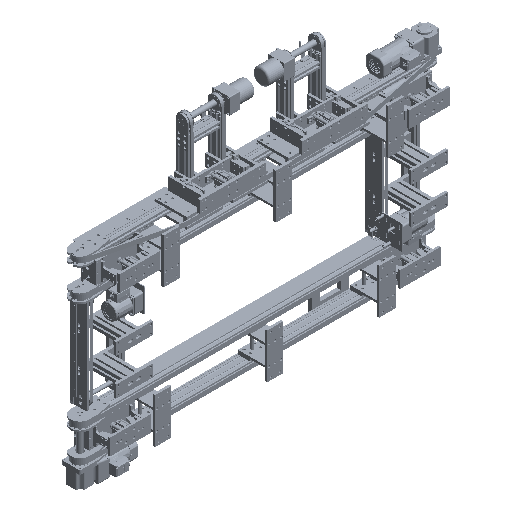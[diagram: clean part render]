
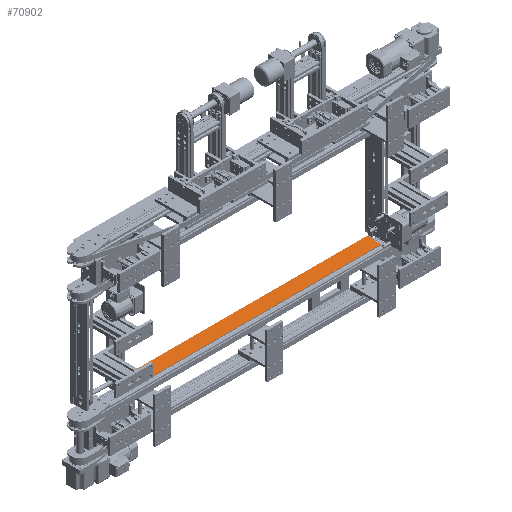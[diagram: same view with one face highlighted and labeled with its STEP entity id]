
A CAD part, isometric view. The second image highlights one B-rep face of the part: STEP entity #70902.
In plain terms, the highlighted planar face has unit normal (0, 0, 1).
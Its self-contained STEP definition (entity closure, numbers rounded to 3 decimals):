
#58934=PLANE('',#320825);
#70902=ADVANCED_FACE('',(#89989),#58934,.F.);
#89989=FACE_OUTER_BOUND('',#104742,.T.);
#104742=EDGE_LOOP('',(#183698,#183699,#183700,#183701,#183702,#183703,#183704,
#183705));
#123083=LINE('',#447262,#144851);
#123088=LINE('',#447274,#144856);
#123090=LINE('',#447278,#144858);
#123092=LINE('',#447282,#144860);
#123093=LINE('',#447284,#144861);
#123101=LINE('',#447308,#144869);
#123106=LINE('',#447320,#144874);
#123107=LINE('',#447321,#144875);
#144851=VECTOR('',#360345,1.);
#144856=VECTOR('',#360354,1.);
#144858=VECTOR('',#360358,1.);
#144860=VECTOR('',#360362,1.);
#144861=VECTOR('',#360365,1.);
#144869=VECTOR('',#360385,1.);
#144874=VECTOR('',#360396,1.);
#144875=VECTOR('',#360397,1.);
#183698=ORIENTED_EDGE('',*,*,#274564,.F.);
#183699=ORIENTED_EDGE('',*,*,#274570,.F.);
#183700=ORIENTED_EDGE('',*,*,#274541,.T.);
#183701=ORIENTED_EDGE('',*,*,#274547,.T.);
#183702=ORIENTED_EDGE('',*,*,#274549,.F.);
#183703=ORIENTED_EDGE('',*,*,#274551,.T.);
#183704=ORIENTED_EDGE('',*,*,#274552,.T.);
#183705=ORIENTED_EDGE('',*,*,#274571,.F.);
#245324=VERTEX_POINT('',#447261);
#245325=VERTEX_POINT('',#447263);
#245329=VERTEX_POINT('',#447273);
#245330=VERTEX_POINT('',#447277);
#245331=VERTEX_POINT('',#447281);
#245332=VERTEX_POINT('',#447285);
#245341=VERTEX_POINT('',#447307);
#245342=VERTEX_POINT('',#447309);
#274541=EDGE_CURVE('',#245325,#245324,#123083,.T.);
#274547=EDGE_CURVE('',#245324,#245329,#123088,.T.);
#274549=EDGE_CURVE('',#245330,#245329,#123090,.T.);
#274551=EDGE_CURVE('',#245330,#245331,#123092,.T.);
#274552=EDGE_CURVE('',#245331,#245332,#123093,.T.);
#274564=EDGE_CURVE('',#245341,#245342,#123101,.T.);
#274570=EDGE_CURVE('',#245325,#245341,#123106,.T.);
#274571=EDGE_CURVE('',#245342,#245332,#123107,.T.);
#320825=AXIS2_PLACEMENT_3D('',#447322,#360398,#360399);
#360345=DIRECTION('',(1.,0.,0.));
#360354=DIRECTION('',(0.,-1.,0.));
#360358=DIRECTION('',(-1.,0.,0.));
#360362=DIRECTION('',(0.,1.,0.));
#360365=DIRECTION('',(1.,0.,0.));
#360385=DIRECTION('',(1.,0.,0.));
#360396=DIRECTION('',(0.,1.,0.));
#360397=DIRECTION('',(0.,-1.,0.));
#360398=DIRECTION('',(0.,0.,-1.));
#360399=DIRECTION('',(1.,0.,0.));
#447261=CARTESIAN_POINT('',(-619.5,15.,0.));
#447262=CARTESIAN_POINT('',(-629.5,15.,0.));
#447263=CARTESIAN_POINT('',(-621.5,15.,0.));
#447273=CARTESIAN_POINT('',(-619.5,-35.,0.));
#447274=CARTESIAN_POINT('',(-619.5,-35.,0.));
#447277=CARTESIAN_POINT('',(619.5,-35.,0.));
#447278=CARTESIAN_POINT('',(-629.5,-35.,0.));
#447281=CARTESIAN_POINT('',(619.5,15.,0.));
#447282=CARTESIAN_POINT('',(619.5,-35.,0.));
#447284=CARTESIAN_POINT('',(629.5,15.,0.));
#447285=CARTESIAN_POINT('',(621.5,15.,0.));
#447307=CARTESIAN_POINT('',(-621.5,35.,0.));
#447308=CARTESIAN_POINT('',(-629.5,35.,0.));
#447309=CARTESIAN_POINT('',(621.5,35.,0.));
#447320=CARTESIAN_POINT('',(-621.5,0.,0.));
#447321=CARTESIAN_POINT('',(621.5,0.,0.));
#447322=CARTESIAN_POINT('',(0.,0.,0.));
